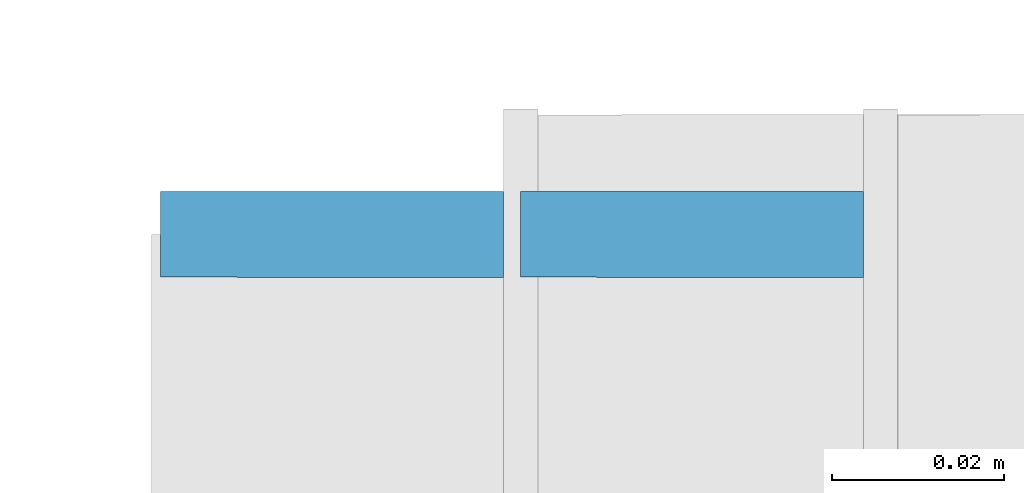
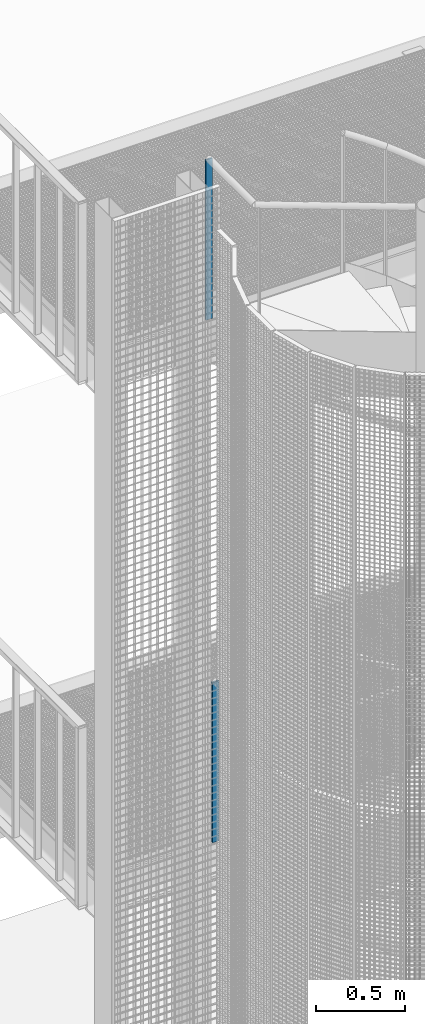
# One storey, part 22 of 1148: 2 columns, 2 elements without a shape of their own.
"""IFC2X3 building model written with IfcOpenShell, lengths in millimetres."""

from ifc_helpers import new_model, si_unit, frame, origin_with_axes, origin_2d_with_axis, place, context, subcontext, project, spatial, rectangle, extrude, material, type_object, element, aggregate, save


model = new_model("IFC2X3")

# Units and contexts
model_context = context("Model", 3, precision=1e-05, world=origin_with_axes())
body_context = subcontext(model_context, "Body", "Model", "MODEL_VIEW")
ifc_project = project(units=[si_unit("LENGTHUNIT", "METRE", prefix="MILLI"), si_unit("AREAUNIT", "SQUARE_METRE"), si_unit("VOLUMEUNIT", "CUBIC_METRE"), si_unit("MASSUNIT", "GRAM", prefix="KILO"), si_unit("TIMEUNIT", "SECOND"), si_unit("PLANEANGLEUNIT", "RADIAN"), si_unit("SOLIDANGLEUNIT", "STERADIAN"), si_unit("THERMODYNAMICTEMPERATUREUNIT", "DEGREE_CELSIUS"), si_unit("LUMINOUSINTENSITYUNIT", "LUMEN")], contexts=[model_context])

# Site, building, storey
site_placement = place(None, origin_with_axes())
site = spatial("IfcSite", under=ifc_project, at=site_placement, Name="Undefined", CompositionType="ELEMENT")
building_placement = place(site_placement, origin_with_axes())
building = spatial("IfcBuilding", under=site, at=building_placement, Name="Undefined", CompositionType="ELEMENT")
storey_placement = place(building_placement, origin_with_axes())
storey = spatial("IfcBuildingStorey", under=building, at=storey_placement, Name="Undefined", CompositionType="ELEMENT", Elevation=0.0)

# Assembly, column
assembly_1_placement = place(storey_placement, origin_with_axes())
assembly_1 = element("IfcElementAssembly", 1, at=assembly_1_placement, inside=storey, Name="MONTANT", AssemblyPlace="NOTDEFINED", PredefinedType="NOTDEFINED")
ifc_material = material(Name="STEEL/S235JR")
column_type = type_object("IfcColumnType", Name="PL10*40", PredefinedType="NOTDEFINED")
column_1_placement = place(assembly_1_placement, frame((-812.912120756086, 1015.37075756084, 13689.84), z_axis=(0.0, 0.0, 1.0), x_axis=(0.999999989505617, -0.000144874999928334, 0.0)))
column_1 = element("IfcColumn", 2, at=column_1_placement, type_object=column_type, material=ifc_material, Name="MONTANT", context=body_context, shape_type="SweptSolid", body=[
    extrude(rectangle(XDim=10.0, YDim=40.0, at=origin_2d_with_axis()), frame((0.0, 0.0, 1100.0), z_axis=(0.0, 0.0, -1.0), x_axis=(0.0, 1.0, 0.0)), (0.0, 0.0, 1.0), 1100.0),
])
aggregate(assembly_1, [column_1])

assembly_2_placement = place(storey_placement, origin_with_axes())
assembly_2 = element("IfcElementAssembly", 3, at=assembly_2_placement, inside=storey, Name="MONTANT", AssemblyPlace="NOTDEFINED", PredefinedType="NOTDEFINED")
column_2_placement = place(assembly_2_placement, frame((-854.872120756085, 1015.37075756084, 17289.84), z_axis=(0.0, 0.0, 1.0), x_axis=(0.999999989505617, -0.000144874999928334, 0.0)))
column_2 = element("IfcColumn", 4, at=column_2_placement, type_object=column_type, material=ifc_material, Name="MONTANT", context=body_context, shape_type="SweptSolid", body=[
    extrude(rectangle(XDim=10.0, YDim=40.0, at=origin_2d_with_axis()), frame((0.0, 0.0, 1100.0), z_axis=(0.0, 0.0, -1.0), x_axis=(0.0, 1.0, 0.0)), (0.0, 0.0, 1.0), 1100.0),
])
aggregate(assembly_2, [column_2])

save(model, "model.ifc")
